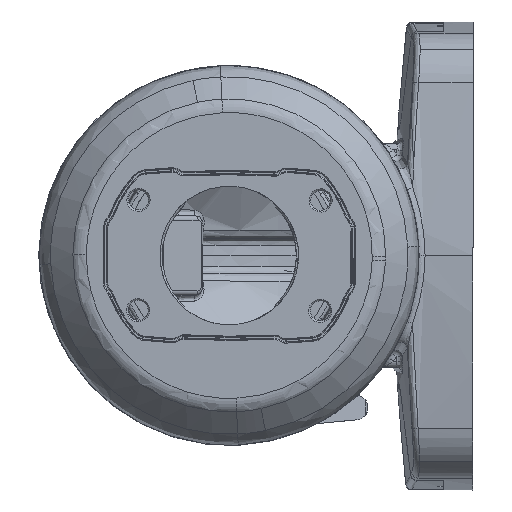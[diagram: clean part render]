
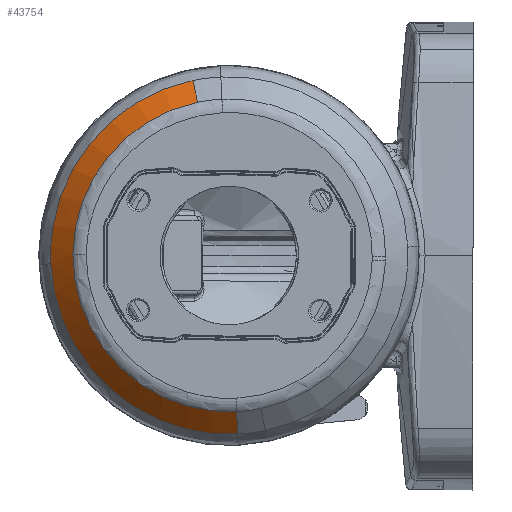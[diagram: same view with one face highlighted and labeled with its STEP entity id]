
A CAD part, left-side view. The second image highlights one B-rep face of the part: STEP entity #43754.
In plain terms, the highlighted conical face has half-angle 45 degrees and reference radius 223.722 mm.
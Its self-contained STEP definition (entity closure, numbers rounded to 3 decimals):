
#17 = CARTESIAN_POINT ( 'NONE',  ( 57.364, 34.884, -32.68 ) ) ;
#1508 = CARTESIAN_POINT ( 'NONE',  ( 25.774, 34.886, -58.603 ) ) ;
#3798 = CARTESIAN_POINT ( 'NONE',  ( 22.866, 34.882, 52.149 ) ) ;
#4667 = ORIENTED_EDGE ( 'NONE', *, *, #52104, .T. ) ;
#5299 = CARTESIAN_POINT ( 'NONE',  ( 60.256, 34.882, 19.572 ) ) ;
#8909 = AXIS2_PLACEMENT_3D ( 'NONE', #188240, #223147, #15761 ) ;
#12948 = DIRECTION ( 'NONE',  ( 0., 1., 0. ) ) ;
#14005 = AXIS2_PLACEMENT_3D ( 'NONE', #183630, #200327, #216991 ) ;
#14586 = CARTESIAN_POINT ( 'NONE',  ( 7.12, 34.888, -61.558 ) ) ;
#15761 = DIRECTION ( 'NONE',  ( -0.156, 0., -0.988 ) ) ;
#17489 = LINE ( 'NONE', #50748, #71744 ) ;
#19041 = CARTESIAN_POINT ( 'NONE',  ( 65.016, 34.882, -7.455 ) ) ;
#22088 = CARTESIAN_POINT ( 'NONE',  ( 7.12, 42.121, -54.325 ) ) ;
#25085 = CARTESIAN_POINT ( 'NONE',  ( 63.514, 34.882, 9.869 ) ) ;
#28915 = FACE_OUTER_BOUND ( 'NONE', #178732, .T. ) ;
#29088 = VERTEX_POINT ( 'NONE', #210790 ) ;
#31823 = EDGE_CURVE ( 'NONE', #29088, #204516, #185050, .T. ) ;
#32650 = CARTESIAN_POINT ( 'NONE',  ( 7.12, 42.121, -3.668 ) ) ;
#34294 = CARTESIAN_POINT ( 'NONE',  ( 63.164, 34.883, -18.677 ) ) ;
#43754 = ADVANCED_FACE ( 'NONE', ( #28915 ), #58722, .T. ) ;
#50186 = EDGE_CURVE ( 'NONE', #97708, #29088, #151500, .T. ) ;
#50748 = CARTESIAN_POINT ( 'NONE',  ( 15.045, 42.121, 46.364 ) ) ;
#52104 = EDGE_CURVE ( 'NONE', #112840, #204516, #69687, .T. ) ;
#53159 = CARTESIAN_POINT ( 'NONE',  ( 15.045, 42.121, 46.364 ) ) ;
#56997 = CARTESIAN_POINT ( 'NONE',  ( 46.484, 34.882, 38.923 ) ) ;
#58722 = CONICAL_SURFACE ( 'NONE', #8909, 223.722, 0.785 ) ;
#60072 = ORIENTED_EDGE ( 'NONE', *, *, #173337, .T. ) ;
#63582 = VERTEX_POINT ( 'NONE', #160489 ) ;
#69439 = ORIENTED_EDGE ( 'NONE', *, *, #170981, .T. ) ;
#69687 = LINE ( 'NONE', #201052, #197456 ) ;
#71744 = VECTOR ( 'NONE', #172221, 1000. ) ;
#74446 = CARTESIAN_POINT ( 'NONE',  ( 16.177, 34.882, 53.514 ) ) ;
#77980 = DIRECTION ( 'NONE',  ( 0., 0.707, 0.707 ) ) ;
#86515 = ORIENTED_EDGE ( 'NONE', *, *, #31823, .F. ) ;
#88146 = CARTESIAN_POINT ( 'NONE',  ( 42.435, 34.885, -49.698 ) ) ;
#89642 = CARTESIAN_POINT ( 'NONE',  ( 7.12, 34.888, -61.558 ) ) ;
#91182 = CARTESIAN_POINT ( 'NONE',  ( 19.546, 34.882, 52.981 ) ) ;
#91913 = CARTESIAN_POINT ( 'NONE',  ( 53.359, 34.882, 31.34 ) ) ;
#94963 = ORIENTED_EDGE ( 'NONE', *, *, #96658, .T. ) ;
#96658 = EDGE_CURVE ( 'NONE', #63582, #147629, #221688, .T. ) ;
#97708 = VERTEX_POINT ( 'NONE', #53159 ) ;
#105589 = CARTESIAN_POINT ( 'NONE',  ( 32.776, 34.886, -55.703 ) ) ;
#108621 = CARTESIAN_POINT ( 'NONE',  ( 32.433, 34.882, 48.512 ) ) ;
#109388 = CARTESIAN_POINT ( 'NONE',  ( 58.793, 34.882, 22.667 ) ) ;
#112840 = VERTEX_POINT ( 'NONE', #14586 ) ;
#120082 = CARTESIAN_POINT ( 'NONE',  ( 59.158, 34.883, -29.322 ) ) ;
#120806 = CARTESIAN_POINT ( 'NONE',  ( 65.016, 34.882, -3.665 ) ) ;
#122305 = CARTESIAN_POINT ( 'NONE',  ( 45.378, 34.885, -47.283 ) ) ;
#126867 = CARTESIAN_POINT ( 'NONE',  ( 29.31, 34.882, 49.915 ) ) ;
#127627 = CARTESIAN_POINT ( 'NONE',  ( 64.714, 34.882, 3.155 ) ) ;
#128861 = AXIS2_PLACEMENT_3D ( 'NONE', #32650, #12948, #187633 ) ;
#143566 = CARTESIAN_POINT ( 'NONE',  ( 38.384, 34.882, 45.179 ) ) ;
#147629 = VERTEX_POINT ( 'NONE', #170806 ) ;
#151500 = CIRCLE ( 'NONE', #14005, 50.656 ) ;
#156510 = CARTESIAN_POINT ( 'NONE',  ( 50.737, 34.884, -41.924 ) ) ;
#156513 = B_SPLINE_CURVE_WITH_KNOTS ( 'NONE', 3,
 ( #120806, #19041, #174006, #34294, #208954, #120082, #17, #192234, #156510, #122305, #88146, #209708, #105589, #1508, #195199, #158752, #192977, #89642 ),
 .UNSPECIFIED., .F., .F.,
 ( 4, 2, 2, 2, 2, 2, 2, 2, 4 ),
 ( 0., 0.125, 0.25, 0.375, 0.5, 0.625, 0.75, 0.875, 1. ),
 .UNSPECIFIED. ) ;
#158752 = CARTESIAN_POINT ( 'NONE',  ( 14.698, 34.887, -61.186 ) ) ;
#160489 = CARTESIAN_POINT ( 'NONE',  ( 16.177, 34.882, 53.514 ) ) ;
#161040 = CARTESIAN_POINT ( 'NONE',  ( 41.212, 34.882, 43.25 ) ) ;
#170806 = CARTESIAN_POINT ( 'NONE',  ( 65.016, 34.882, -3.665 ) ) ;
#170981 = EDGE_CURVE ( 'NONE', #147629, #112840, #156513, .T. ) ;
#172221 = DIRECTION ( 'NONE',  ( 0.111, -0.707, 0.698 ) ) ;
#173337 = EDGE_CURVE ( 'NONE', #97708, #63582, #17489, .T. ) ;
#174006 = CARTESIAN_POINT ( 'NONE',  ( 64.643, 34.882, -11.244 ) ) ;
#178732 = EDGE_LOOP ( 'NONE', ( #60072, #94963, #69439, #4667, #86515, #186007 ) ) ;
#179313 = CARTESIAN_POINT ( 'NONE',  ( 65.016, 34.882, -0.255 ) ) ;
#180086 = CARTESIAN_POINT ( 'NONE',  ( 65.016, 34.882, -3.665 ) ) ;
#180835 = CARTESIAN_POINT ( 'NONE',  ( 62.617, 34.882, 13.173 ) ) ;
#183630 = CARTESIAN_POINT ( 'NONE',  ( 7.12, 42.121, -3.668 ) ) ;
#185050 = CIRCLE ( 'NONE', #128861, 50.656 ) ;
#186007 = ORIENTED_EDGE ( 'NONE', *, *, #50186, .F. ) ;
#187633 = DIRECTION ( 'NONE',  ( 0.999, 0., 0.053 ) ) ;
#188240 = CARTESIAN_POINT ( 'NONE',  ( 7.12, -130.944, -3.668 ) ) ;
#192234 = CARTESIAN_POINT ( 'NONE',  ( 53.153, 34.884, -38.981 ) ) ;
#192977 = CARTESIAN_POINT ( 'NONE',  ( 10.909, 34.887, -61.559 ) ) ;
#195199 = CARTESIAN_POINT ( 'NONE',  ( 22.131, 34.887, -59.708 ) ) ;
#196005 = CARTESIAN_POINT ( 'NONE',  ( 48.929, 34.882, 36.526 ) ) ;
#197456 = VECTOR ( 'NONE', #77980, 1000. ) ;
#200327 = DIRECTION ( 'NONE',  ( 0., 1., 0. ) ) ;
#201052 = CARTESIAN_POINT ( 'NONE',  ( 7.12, 34.888, -61.558 ) ) ;
#204516 = VERTEX_POINT ( 'NONE', #22088 ) ;
#208954 = CARTESIAN_POINT ( 'NONE',  ( 62.059, 34.883, -22.321 ) ) ;
#209708 = CARTESIAN_POINT ( 'NONE',  ( 36.134, 34.886, -53.908 ) ) ;
#210790 = CARTESIAN_POINT ( 'NONE',  ( 57.706, 42.121, -0.99 ) ) ;
#213466 = CARTESIAN_POINT ( 'NONE',  ( 55.344, 34.882, 28.551 ) ) ;
#216991 = DIRECTION ( 'NONE',  ( 0.156, 0., 0.988 ) ) ;
#221688 = B_SPLINE_CURVE_WITH_KNOTS ( 'NONE', 3,
 ( #74446, #91182, #3798, #126867, #108621, #143566, #161040, #56997, #196005, #91913, #213466, #109388, #5299, #180835, #25085, #127627, #179313, #180086 ),
 .UNSPECIFIED., .F., .F.,
 ( 4, 2, 2, 2, 2, 2, 2, 2, 4 ),
 ( 0., 0.125, 0.25, 0.375, 0.5, 0.625, 0.75, 0.875, 1. ),
 .UNSPECIFIED. ) ;
#223147 = DIRECTION ( 'NONE',  ( 0., -1., 0. ) ) ;
